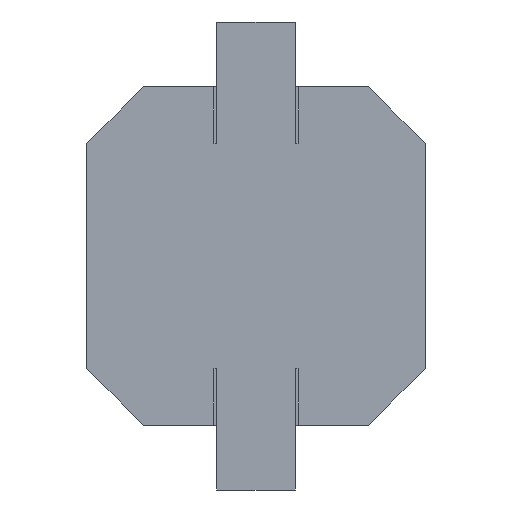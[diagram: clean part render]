
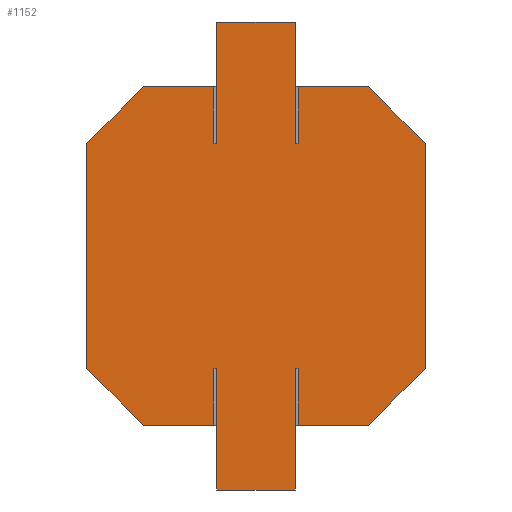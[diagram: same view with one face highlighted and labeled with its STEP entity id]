
A CAD part, front view. The second image highlights one B-rep face of the part: STEP entity #1152.
In plain terms, the highlighted planar face has unit normal (0, -1, 0).
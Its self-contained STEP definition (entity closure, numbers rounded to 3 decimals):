
#165=DIRECTION('',(-1.,0.,0.));
#166=VECTOR('',#165,0.05);
#167=CARTESIAN_POINT('',(0.75,-3.5,-2.));
#168=LINE('',#167,#166);
#172=DIRECTION('',(0.,0.,-1.));
#173=VECTOR('',#172,2.15);
#174=CARTESIAN_POINT('',(0.7,-3.5,-2.));
#175=LINE('',#174,#173);
#179=DIRECTION('',(0.,0.,1.));
#180=VECTOR('',#179,2.15);
#181=CARTESIAN_POINT('',(-0.7,-3.5,-4.15));
#182=LINE('',#181,#180);
#186=DIRECTION('',(-1.,0.,0.));
#187=VECTOR('',#186,0.05);
#188=CARTESIAN_POINT('',(-0.7,-3.5,-2.));
#189=LINE('',#188,#187);
#193=DIRECTION('',(0.,0.,1.));
#194=VECTOR('',#193,1.);
#195=CARTESIAN_POINT('',(-0.75,-3.5,-3.));
#196=LINE('',#195,#194);
#200=DIRECTION('',(-1.,0.,0.));
#201=VECTOR('',#200,1.25);
#202=CARTESIAN_POINT('',(-0.75,-3.5,-3.));
#203=LINE('',#202,#201);
#207=DIRECTION('',(0.707,0.,-0.707));
#208=VECTOR('',#207,1.414);
#209=CARTESIAN_POINT('',(-3.,-3.5,-2.));
#210=LINE('',#209,#208);
#214=DIRECTION('',(0.,0.,1.));
#215=VECTOR('',#214,4.);
#216=CARTESIAN_POINT('',(-3.,-3.5,-2.));
#217=LINE('',#216,#215);
#221=DIRECTION('',(-0.707,0.,-0.707));
#222=VECTOR('',#221,1.414);
#223=CARTESIAN_POINT('',(-2.,-3.5,3.));
#224=LINE('',#223,#222);
#228=DIRECTION('',(1.,0.,0.));
#229=VECTOR('',#228,1.25);
#230=CARTESIAN_POINT('',(-2.,-3.5,3.));
#231=LINE('',#230,#229);
#235=DIRECTION('',(0.,0.,-1.));
#236=VECTOR('',#235,1.);
#237=CARTESIAN_POINT('',(-0.75,-3.5,3.));
#238=LINE('',#237,#236);
#242=DIRECTION('',(1.,0.,0.));
#243=VECTOR('',#242,0.05);
#244=CARTESIAN_POINT('',(-0.75,-3.5,2.));
#245=LINE('',#244,#243);
#249=DIRECTION('',(0.,0.,1.));
#250=VECTOR('',#249,2.15);
#251=CARTESIAN_POINT('',(-0.7,-3.5,2.));
#252=LINE('',#251,#250);
#256=DIRECTION('',(1.,0.,0.));
#257=VECTOR('',#256,1.4);
#258=CARTESIAN_POINT('',(-0.7,-3.5,4.15));
#259=LINE('',#258,#257);
#263=DIRECTION('',(0.,0.,-1.));
#264=VECTOR('',#263,2.15);
#265=CARTESIAN_POINT('',(0.7,-3.5,4.15));
#266=LINE('',#265,#264);
#270=DIRECTION('',(1.,0.,0.));
#271=VECTOR('',#270,0.05);
#272=CARTESIAN_POINT('',(0.7,-3.5,2.));
#273=LINE('',#272,#271);
#277=DIRECTION('',(0.,0.,-1.));
#278=VECTOR('',#277,1.);
#279=CARTESIAN_POINT('',(0.75,-3.5,3.));
#280=LINE('',#279,#278);
#284=DIRECTION('',(1.,0.,0.));
#285=VECTOR('',#284,1.25);
#286=CARTESIAN_POINT('',(0.75,-3.5,3.));
#287=LINE('',#286,#285);
#291=DIRECTION('',(-0.707,0.,0.707));
#292=VECTOR('',#291,1.414);
#293=CARTESIAN_POINT('',(3.,-3.5,2.));
#294=LINE('',#293,#292);
#298=DIRECTION('',(0.,0.,-1.));
#299=VECTOR('',#298,4.);
#300=CARTESIAN_POINT('',(3.,-3.5,2.));
#301=LINE('',#300,#299);
#305=DIRECTION('',(0.707,0.,0.707));
#306=VECTOR('',#305,1.414);
#307=CARTESIAN_POINT('',(2.,-3.5,-3.));
#308=LINE('',#307,#306);
#312=DIRECTION('',(-1.,0.,0.));
#313=VECTOR('',#312,1.25);
#314=CARTESIAN_POINT('',(2.,-3.5,-3.));
#315=LINE('',#314,#313);
#319=DIRECTION('',(0.,0.,1.));
#320=VECTOR('',#319,1.);
#321=CARTESIAN_POINT('',(0.75,-3.5,-3.));
#322=LINE('',#321,#320);
#606=DIRECTION('',(1.,0.,0.));
#607=VECTOR('',#606,1.4);
#608=CARTESIAN_POINT('',(-0.7,-3.5,-4.15));
#609=LINE('',#608,#607);
#897=CARTESIAN_POINT('',(2.,-3.5,-3.));
#898=CARTESIAN_POINT('',(3.,-3.5,-2.));
#899=VERTEX_POINT('',#897);
#900=VERTEX_POINT('',#898);
#905=CARTESIAN_POINT('',(-3.,-3.5,-2.));
#906=CARTESIAN_POINT('',(-2.,-3.5,-3.));
#907=VERTEX_POINT('',#905);
#908=VERTEX_POINT('',#906);
#913=CARTESIAN_POINT('',(-2.,-3.5,3.));
#914=CARTESIAN_POINT('',(-3.,-3.5,2.));
#915=VERTEX_POINT('',#913);
#916=VERTEX_POINT('',#914);
#921=CARTESIAN_POINT('',(3.,-3.5,2.));
#922=CARTESIAN_POINT('',(2.,-3.5,3.));
#923=VERTEX_POINT('',#921);
#924=VERTEX_POINT('',#922);
#941=CARTESIAN_POINT('',(-0.75,-3.5,-3.));
#942=VERTEX_POINT('',#941);
#943=CARTESIAN_POINT('',(0.75,-3.5,-3.));
#944=VERTEX_POINT('',#943);
#949=CARTESIAN_POINT('',(0.75,-3.5,3.));
#950=VERTEX_POINT('',#949);
#951=CARTESIAN_POINT('',(-0.75,-3.5,3.));
#952=VERTEX_POINT('',#951);
#953=CARTESIAN_POINT('',(0.75,-3.5,2.));
#954=VERTEX_POINT('',#953);
#955=CARTESIAN_POINT('',(-0.75,-3.5,2.));
#956=VERTEX_POINT('',#955);
#957=CARTESIAN_POINT('',(-0.75,-3.5,-2.));
#958=VERTEX_POINT('',#957);
#959=CARTESIAN_POINT('',(0.75,-3.5,-2.));
#960=VERTEX_POINT('',#959);
#961=CARTESIAN_POINT('',(-0.7,-3.5,-4.15));
#963=VERTEX_POINT('',#961);
#966=CARTESIAN_POINT('',(-0.7,-3.5,4.15));
#968=VERTEX_POINT('',#966);
#969=CARTESIAN_POINT('',(0.7,-3.5,-4.15));
#971=VERTEX_POINT('',#969);
#974=CARTESIAN_POINT('',(0.7,-3.5,4.15));
#976=VERTEX_POINT('',#974);
#978=CARTESIAN_POINT('',(-0.7,-3.5,2.));
#980=VERTEX_POINT('',#978);
#982=CARTESIAN_POINT('',(0.7,-3.5,2.));
#984=VERTEX_POINT('',#982);
#986=CARTESIAN_POINT('',(-0.7,-3.5,-2.));
#988=VERTEX_POINT('',#986);
#990=CARTESIAN_POINT('',(0.7,-3.5,-2.));
#992=VERTEX_POINT('',#990);
#1098=CARTESIAN_POINT('',(0.,-3.5,0.));
#1099=DIRECTION('',(0.,1.,0.));
#1100=DIRECTION('',(1.,0.,0.));
#1101=AXIS2_PLACEMENT_3D('',#1098,#1099,#1100);
#1102=PLANE('',#1101);
#1104=ORIENTED_EDGE('',*,*,#1103,.T.);
#1106=ORIENTED_EDGE('',*,*,#1105,.T.);
#1108=ORIENTED_EDGE('',*,*,#1107,.F.);
#1110=ORIENTED_EDGE('',*,*,#1109,.T.);
#1112=ORIENTED_EDGE('',*,*,#1111,.T.);
#1114=ORIENTED_EDGE('',*,*,#1113,.F.);
#1116=ORIENTED_EDGE('',*,*,#1115,.T.);
#1118=ORIENTED_EDGE('',*,*,#1117,.F.);
#1120=ORIENTED_EDGE('',*,*,#1119,.T.);
#1122=ORIENTED_EDGE('',*,*,#1121,.F.);
#1124=ORIENTED_EDGE('',*,*,#1123,.T.);
#1126=ORIENTED_EDGE('',*,*,#1125,.T.);
#1128=ORIENTED_EDGE('',*,*,#1127,.T.);
#1130=ORIENTED_EDGE('',*,*,#1129,.T.);
#1132=ORIENTED_EDGE('',*,*,#1131,.T.);
#1134=ORIENTED_EDGE('',*,*,#1133,.T.);
#1136=ORIENTED_EDGE('',*,*,#1135,.T.);
#1138=ORIENTED_EDGE('',*,*,#1137,.F.);
#1140=ORIENTED_EDGE('',*,*,#1139,.T.);
#1142=ORIENTED_EDGE('',*,*,#1141,.F.);
#1144=ORIENTED_EDGE('',*,*,#1143,.T.);
#1145=ORIENTED_EDGE('',*,*,#1088,.F.);
#1147=ORIENTED_EDGE('',*,*,#1146,.T.);
#1149=ORIENTED_EDGE('',*,*,#1148,.T.);
#1150=EDGE_LOOP('',(#1104,#1106,#1108,#1110,#1112,#1114,#1116,#1118,#1120,#1122,
#1124,#1126,#1128,#1130,#1132,#1134,#1136,#1138,#1140,#1142,#1144,#1145,#1147,
#1149));
#1151=FACE_OUTER_BOUND('',#1150,.F.);
#1088=EDGE_CURVE('',#899,#900,#308,.T.);
#1103=EDGE_CURVE('',#960,#992,#168,.T.);
#1105=EDGE_CURVE('',#992,#971,#175,.T.);
#1107=EDGE_CURVE('',#963,#971,#609,.T.);
#1109=EDGE_CURVE('',#963,#988,#182,.T.);
#1111=EDGE_CURVE('',#988,#958,#189,.T.);
#1113=EDGE_CURVE('',#942,#958,#196,.T.);
#1115=EDGE_CURVE('',#942,#908,#203,.T.);
#1117=EDGE_CURVE('',#907,#908,#210,.T.);
#1119=EDGE_CURVE('',#907,#916,#217,.T.);
#1121=EDGE_CURVE('',#915,#916,#224,.T.);
#1123=EDGE_CURVE('',#915,#952,#231,.T.);
#1125=EDGE_CURVE('',#952,#956,#238,.T.);
#1127=EDGE_CURVE('',#956,#980,#245,.T.);
#1129=EDGE_CURVE('',#980,#968,#252,.T.);
#1131=EDGE_CURVE('',#968,#976,#259,.T.);
#1133=EDGE_CURVE('',#976,#984,#266,.T.);
#1135=EDGE_CURVE('',#984,#954,#273,.T.);
#1137=EDGE_CURVE('',#950,#954,#280,.T.);
#1139=EDGE_CURVE('',#950,#924,#287,.T.);
#1141=EDGE_CURVE('',#923,#924,#294,.T.);
#1143=EDGE_CURVE('',#923,#900,#301,.T.);
#1146=EDGE_CURVE('',#899,#944,#315,.T.);
#1148=EDGE_CURVE('',#944,#960,#322,.T.);
#1152=ADVANCED_FACE('',(#1151),#1102,.F.);
